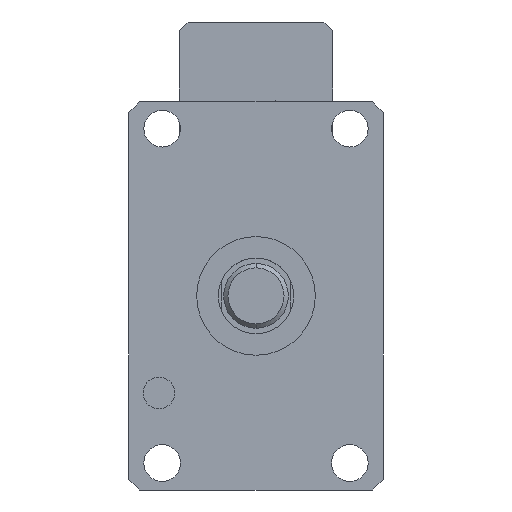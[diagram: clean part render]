
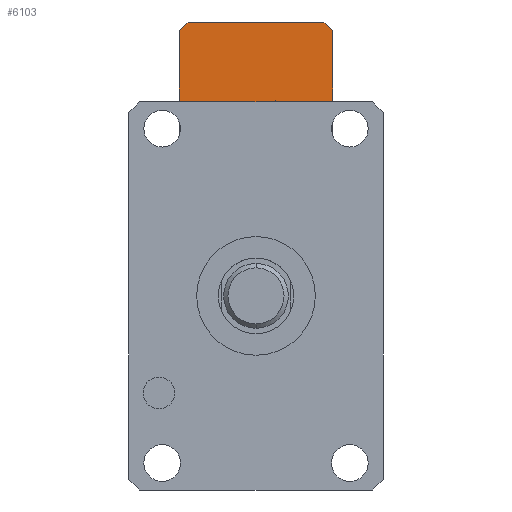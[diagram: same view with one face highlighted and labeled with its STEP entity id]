
A CAD part, front view. The second image highlights one B-rep face of the part: STEP entity #6103.
In plain terms, the highlighted planar face has unit normal (0, -1, 0).
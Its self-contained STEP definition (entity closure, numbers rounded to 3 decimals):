
#66 = CARTESIAN_POINT ( 'NONE',  ( 31.5, 280., 56. ) ) ;
#94 = VERTEX_POINT ( 'NONE', #497 ) ;
#134 = DIRECTION ( 'NONE',  ( 1., 0., 0. ) ) ;
#497 = CARTESIAN_POINT ( 'NONE',  ( 35.5, 280., 123. ) ) ;
#847 = DIRECTION ( 'NONE',  ( 0.707, 0., 0.707 ) ) ;
#850 = LINE ( 'NONE', #11781, #8304 ) ;
#941 = VERTEX_POINT ( 'NONE', #1303 ) ;
#963 = EDGE_CURVE ( 'NONE', #10275, #7389, #2496, .T. ) ;
#1117 = PLANE ( 'NONE',  #3431 ) ;
#1157 = CARTESIAN_POINT ( 'NONE',  ( 35.5, 280., 60. ) ) ;
#1260 = EDGE_CURVE ( 'NONE', #9480, #4452, #7539, .T. ) ;
#1303 = CARTESIAN_POINT ( 'NONE',  ( -35.5, 280., 60. ) ) ;
#1316 = ORIENTED_EDGE ( 'NONE', *, *, #7860, .T. ) ;
#1572 = AXIS2_PLACEMENT_3D ( 'NONE', #4921, #11721, #5904 ) ;
#1669 = EDGE_LOOP ( 'NONE', ( #6150, #9082 ) ) ;
#1852 = CARTESIAN_POINT ( 'NONE',  ( -35.5, 280., 123. ) ) ;
#2086 = DIRECTION ( 'NONE',  ( 0., 0., 1. ) ) ;
#2263 = VECTOR ( 'NONE', #847, 1000. ) ;
#2275 = VERTEX_POINT ( 'NONE', #1157 ) ;
#2447 = CIRCLE ( 'NONE', #8794, 7.903 ) ;
#2496 = LINE ( 'NONE', #3306, #4465 ) ;
#2525 = LINE ( 'NONE', #8907, #12563 ) ;
#2582 = CARTESIAN_POINT ( 'NONE',  ( 9., 280., 82.5 ) ) ;
#2615 = VECTOR ( 'NONE', #12499, 1000. ) ;
#3065 = ORIENTED_EDGE ( 'NONE', *, *, #3169, .T. ) ;
#3069 = FACE_OUTER_BOUND ( 'NONE', #11557, .T. ) ;
#3169 = EDGE_CURVE ( 'NONE', #7389, #2275, #4826, .T. ) ;
#3306 = CARTESIAN_POINT ( 'NONE',  ( 35.5, 280., 56. ) ) ;
#3431 = AXIS2_PLACEMENT_3D ( 'NONE', #7814, #7910, #2086 ) ;
#3556 = DIRECTION ( 'NONE',  ( 0., 0., -1. ) ) ;
#3592 = VECTOR ( 'NONE', #10075, 1000. ) ;
#3710 = VERTEX_POINT ( 'NONE', #7199 ) ;
#4268 = ORIENTED_EDGE ( 'NONE', *, *, #963, .T. ) ;
#4442 = CARTESIAN_POINT ( 'NONE',  ( 9., 280., 74.597 ) ) ;
#4452 = VERTEX_POINT ( 'NONE', #4442 ) ;
#4465 = VECTOR ( 'NONE', #8148, 1000. ) ;
#4594 = ORIENTED_EDGE ( 'NONE', *, *, #6249, .F. ) ;
#4700 = CARTESIAN_POINT ( 'NONE',  ( 35.5, 280., 60. ) ) ;
#4826 = LINE ( 'NONE', #4700, #2263 ) ;
#4921 = CARTESIAN_POINT ( 'NONE',  ( 9., 280., 82.5 ) ) ;
#4922 = VERTEX_POINT ( 'NONE', #1852 ) ;
#5205 = LINE ( 'NONE', #5697, #2615 ) ;
#5216 = CARTESIAN_POINT ( 'NONE',  ( -35.5, 280., 60. ) ) ;
#5288 = EDGE_CURVE ( 'NONE', #4452, #9480, #2447, .T. ) ;
#5641 = FACE_BOUND ( 'NONE', #1669, .T. ) ;
#5697 = CARTESIAN_POINT ( 'NONE',  ( 31.5, 280., 127. ) ) ;
#5841 = EDGE_CURVE ( 'NONE', #94, #9495, #5205, .T. ) ;
#5850 = DIRECTION ( 'NONE',  ( 0., 0., -1. ) ) ;
#5904 = DIRECTION ( 'NONE',  ( 0., 0., -1. ) ) ;
#6103 = ADVANCED_FACE ( 'NONE', ( #5641, #3069 ), #1117, .F. ) ;
#6150 = ORIENTED_EDGE ( 'NONE', *, *, #5288, .F. ) ;
#6249 = EDGE_CURVE ( 'NONE', #94, #2275, #11568, .T. ) ;
#6385 = VECTOR ( 'NONE', #9395, 1000. ) ;
#7081 = LINE ( 'NONE', #7796, #11973 ) ;
#7199 = CARTESIAN_POINT ( 'NONE',  ( -31.5, 280., 127. ) ) ;
#7375 = EDGE_CURVE ( 'NONE', #4922, #941, #7081, .T. ) ;
#7389 = VERTEX_POINT ( 'NONE', #66 ) ;
#7539 = CIRCLE ( 'NONE', #1572, 7.903 ) ;
#7796 = CARTESIAN_POINT ( 'NONE',  ( -35.5, 280., 127. ) ) ;
#7814 = CARTESIAN_POINT ( 'NONE',  ( 35.5, 280., 127. ) ) ;
#7860 = EDGE_CURVE ( 'NONE', #3710, #4922, #2525, .T. ) ;
#7910 = DIRECTION ( 'NONE',  ( 0., 1., 0. ) ) ;
#8002 = EDGE_CURVE ( 'NONE', #941, #10275, #9073, .T. ) ;
#8148 = DIRECTION ( 'NONE',  ( 1., 0., 0. ) ) ;
#8286 = EDGE_CURVE ( 'NONE', #3710, #9495, #850, .T. ) ;
#8304 = VECTOR ( 'NONE', #134, 1000. ) ;
#8343 = ORIENTED_EDGE ( 'NONE', *, *, #8286, .F. ) ;
#8429 = CARTESIAN_POINT ( 'NONE',  ( 35.5, 280., 127. ) ) ;
#8794 = AXIS2_PLACEMENT_3D ( 'NONE', #2582, #9375, #3556 ) ;
#8907 = CARTESIAN_POINT ( 'NONE',  ( -31.5, 280., 127. ) ) ;
#9073 = LINE ( 'NONE', #5216, #3592 ) ;
#9082 = ORIENTED_EDGE ( 'NONE', *, *, #1260, .F. ) ;
#9313 = ORIENTED_EDGE ( 'NONE', *, *, #7375, .T. ) ;
#9325 = CARTESIAN_POINT ( 'NONE',  ( 31.5, 280., 127. ) ) ;
#9375 = DIRECTION ( 'NONE',  ( 0., -1., 0. ) ) ;
#9395 = DIRECTION ( 'NONE',  ( 0., 0., -1. ) ) ;
#9480 = VERTEX_POINT ( 'NONE', #11249 ) ;
#9495 = VERTEX_POINT ( 'NONE', #9325 ) ;
#9889 = ORIENTED_EDGE ( 'NONE', *, *, #8002, .T. ) ;
#9893 = DIRECTION ( 'NONE',  ( -0.707, 0., -0.707 ) ) ;
#10075 = DIRECTION ( 'NONE',  ( 0.707, 0., -0.707 ) ) ;
#10275 = VERTEX_POINT ( 'NONE', #12453 ) ;
#11249 = CARTESIAN_POINT ( 'NONE',  ( 9., 280., 90.403 ) ) ;
#11557 = EDGE_LOOP ( 'NONE', ( #4268, #3065, #4594, #12533, #8343, #1316, #9313, #9889 ) ) ;
#11568 = LINE ( 'NONE', #8429, #6385 ) ;
#11721 = DIRECTION ( 'NONE',  ( 0., -1., 0. ) ) ;
#11781 = CARTESIAN_POINT ( 'NONE',  ( 35.5, 280., 127. ) ) ;
#11973 = VECTOR ( 'NONE', #5850, 1000. ) ;
#12453 = CARTESIAN_POINT ( 'NONE',  ( -31.5, 280., 56. ) ) ;
#12499 = DIRECTION ( 'NONE',  ( -0.707, 0., 0.707 ) ) ;
#12533 = ORIENTED_EDGE ( 'NONE', *, *, #5841, .T. ) ;
#12563 = VECTOR ( 'NONE', #9893, 1000. ) ;
